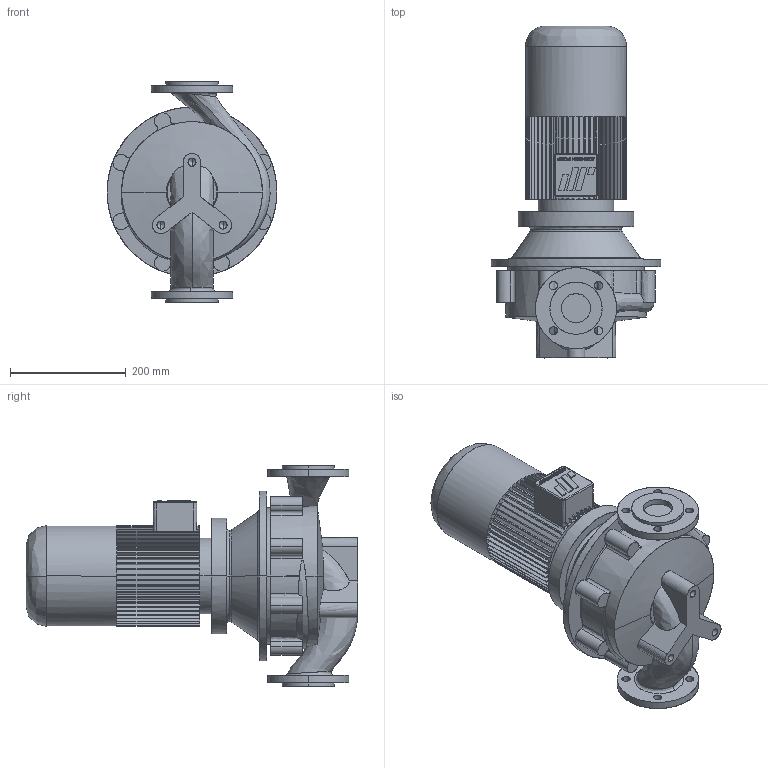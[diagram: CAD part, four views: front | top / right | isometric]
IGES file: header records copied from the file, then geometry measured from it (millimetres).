
Start section: CombiLine
Global section: file name: CLB_50-200_IEC90L.igs; native system:  By UGS Corp.; preprocessor: XPlus GENERIC/IGES 3.0; author: Stageplaats; organization: Johnson Pump Water B.V.; date: 20070713.131207; units: millimetre
Bounding box: 293 x 572.5 x 380 mm (x, y, z)
Surface area: 757455.9 mm2 (no closed solid volume)
Topology: 0 solids, 0 shells, 540 faces, 3288 edges, 3282 vertices
Faces by surface type: bspline 540
